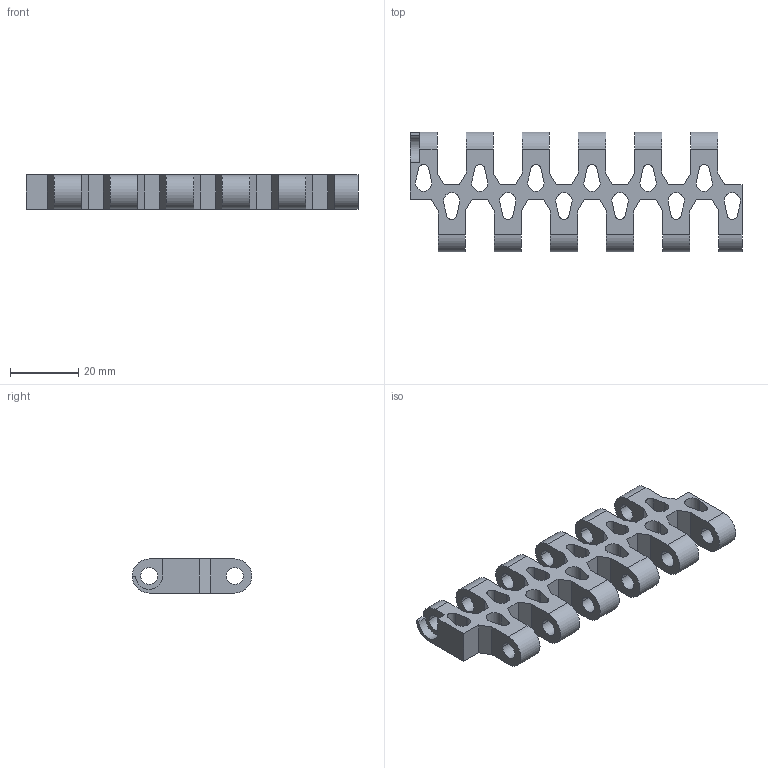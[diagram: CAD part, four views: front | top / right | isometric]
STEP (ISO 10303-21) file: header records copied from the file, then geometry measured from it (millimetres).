
FILE_DESCRIPTION(('CATIA V5 STEP Exchange'),'2;1');
FILE_NAME('C:\Users\ALI OZGUN\Desktop\alhan\910B01P01_100MM.stp','2017-08-25T12:00:41+00:00',('none'),('none'),'CATIA Version 5 Release 21 GA (IN-10)','CATIA V5 STEP AP203','none');
FILE_SCHEMA(('CONFIG_CONTROL_DESIGN'));
Length unit declared in the file: millimetre
Products named in the file (1): 910B01P01_100MM
Bounding box: 97.6 x 35.2 x 10 mm (x, y, z)
Volume: 13129.6 mm3; surface area: 11444 mm2
Topology: 1 solids, 1 shells, 148 faces, 438 edges, 292 vertices
Faces by surface type: plane 87, cylinder 61
Entity records: 4770 total; most frequent: ORIENTED_EDGE 876, CARTESIAN_POINT 837, DIRECTION 650, EDGE_CURVE 438, VECTOR 315, LINE 315, VERTEX_POINT 292, AXIS2_PLACEMENT_3D 230
